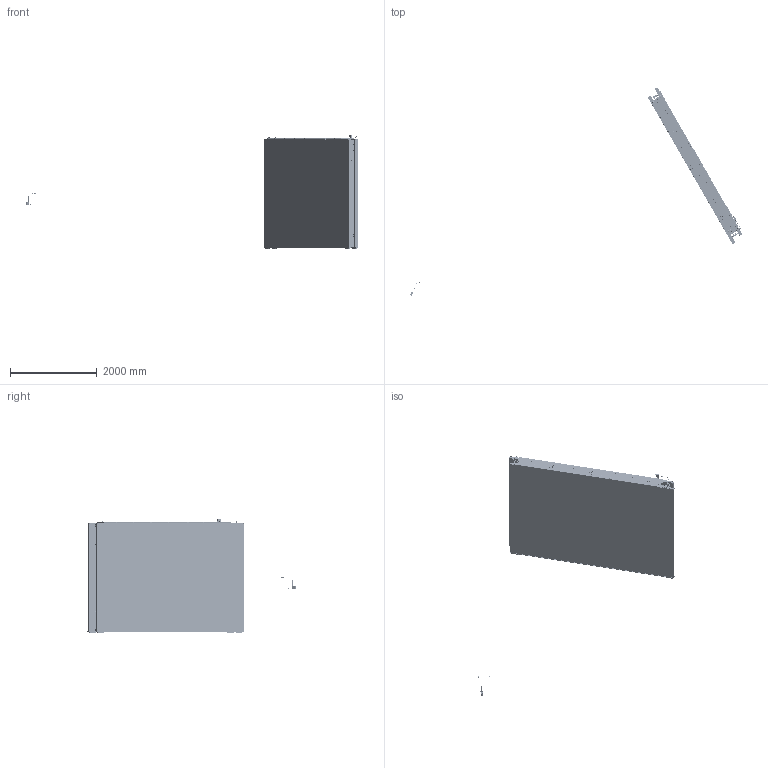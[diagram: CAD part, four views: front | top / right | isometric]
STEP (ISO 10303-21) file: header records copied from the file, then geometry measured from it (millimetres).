
FILE_DESCRIPTION(/* description */ (''),/* implementation_level */ '2;1');
FILE_NAME(/* name */ '040209_mb48_2_4_8_sx_phi_L_carters.stp',/* time_stamp */ '2018-11-09T11:25:05+01:00',/* author */ (''),/* organization */ (''),/* preprocessor_version */ 'ST-DEVELOPER v16',/* originating_system */ 'SIEMENS PLM Software NX 11.0',/* authorisation */ '');
FILE_SCHEMA (('AP203_CONFIGURATION_CONTROLLED_3D_DESIGN_OF_MECHANICAL_PARTS_AND_ASSEMBLIES_MIM_LF { 1 0 10303 403 2 1 2}'));
Products named in the file (165): piastra_0011_spess; piastra_0011; rivetto_4; guide_schematik_for_verify2; guide_schematik_for_verify; spina_5x26; elicoil; rivetto_svas_m10; slow_control_model; power_supply_model; tappo1_4; connett_test_p; connett_fe; mb45_phi_lam_vars; mb3c_phi_lam_vars; mb3_phi_lam_vars; mb2c_th_lam_vars; mb2c_phi_lam_vars; mb2_th_lam_vars; mb2_phi_lam_vars; mb3c_th_lam_vars; mb45c_phi_lam_vars; mb3_th_lam_vars; mb48_phi_lam_vars; mb1_phi_lam_vars; mb1_th_lam_vars; mb49_phi_lam_vars; mb1c_phi_lam_vars; mb1c_th_lam_vars; cover_new2; axis; tappo1_8; i_endplug; wire_endplug; colon_front_000308; block_sh12_000301; mb1_q1_strip; corpo_elbow; w4_8_hc_skin_178; w4_8_hc_core_178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
Assembly tree (417 placements, depth 7):
  040209_mb48_2_4_8_sx_phi_L_carters
    mb48_2_4_8_sx_ass
      mb48_2_4_8_sx_ch
        mb48_phi_superlay  x2
          mb48_q1_ass_lamiere
            mb48_q1_b1
            mb48_q1_b1_corto  x3
              mb1_q1_strip
            mb48_q1_b1_up
            cms_mb_02_035  x4
          mb3_q1_ass_lateral
            as_angle  x2
              block_sh12_000301
              colon_front_000308
            cms_mb_02_014
          vite_m4
          wires_2d_ass_mb_z_4_8_q1
            wires_2d_mb_z_4_8_q1
            ibeams_2d_mb_z_4_8_q1
            mb48_q1_as_w_endplug
              wire_endplug  x2
            mb48_q1_as_i_endplug
              i_endplug  x2
          mb48_q1_cover_hv_ass
            cms_mb_02_036
            cms_mb_02_037
              tappo1_8  x2
              axis  x57
            as_hv_conn_cover  x2
              cover_new2
          vars
            mb1c_th_vars
              mb1c_th_lam_vars
            mb1c_phi_vars
              mb1c_phi_lam_vars
            mb49_phi_vars
              mb49_phi_lam_vars
            mb1_th_vars
              mb1_th_lam_vars
            mb1_phi_vars
              mb1_phi_lam_vars
            mb48_phi_vars
              mb48_phi_lam_vars
            mb3_th_vars
              mb3_th_lam_vars
            mb45c_phi_vars
              mb45c_phi_lam_vars
            mb3c_th_vars
              mb3c_th_lam_vars
            mb2_phi_vars
              mb2_phi_lam_vars
            mb2_th_vars
              mb2_th_lam_vars
            mb2c_phi_vars
              mb2c_phi_lam_vars
            mb2c_th_vars
              mb2c_th_lam_vars
            mb3_phi_vars
              mb3_phi_lam_vars
            mb3c_phi_vars
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Bounding box: 7656.46 x 4821.64 x 2646 mm (x, y, z)
Volume: 3222755076.1 mm3; surface area: 436263306.3 mm2
Topology: 381 solids, 732 shells, 19578 faces, 66647 edges, 56412 vertices
Faces by surface type: plane 9868, cylinder 7387, cone 1825, torus 284, bspline 156, sphere 58
Full cylindrical faces by diameter (mm): 1 x354, 1.675 x12, 2 x16, 2.594 x72, 3 x96, 3.2 x16, 3.25 x4, 3.3 x48, 3.432 x901, 3.5 x66, 3.778 x7, 4 x34, 4.351 x8, 4.5 x4, 4.8 x35, 5 x103, 5.188 x104, 5.5 x540, 6 x27, 6.4 x22, 6.5 x18, 7 x2, 7.188 x4, 7.5 x96, 8 x67, 8.6 x6, 8.782 x4, 8.8 x20, 8.933 x28, 8.985 x24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
Entity records: 494364 total; most frequent: CARTESIAN_POINT 113204, DIRECTION 67013, ORIENTED_EDGE 56499, EDGE_CURVE 28654, LINE 23173, VECTOR 23173, AXIS2_PLACEMENT_3D 21920, VERTEX_POINT 20779
